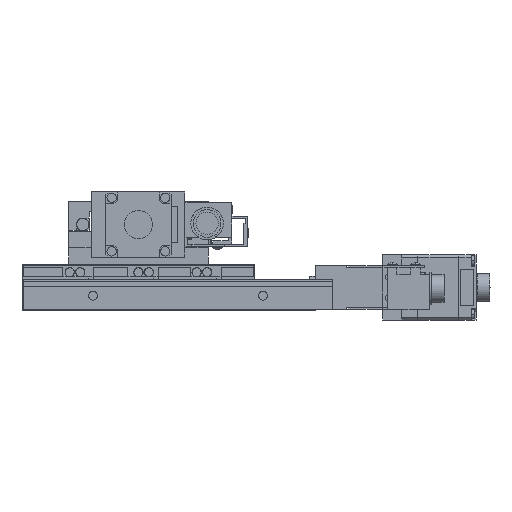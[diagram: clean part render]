
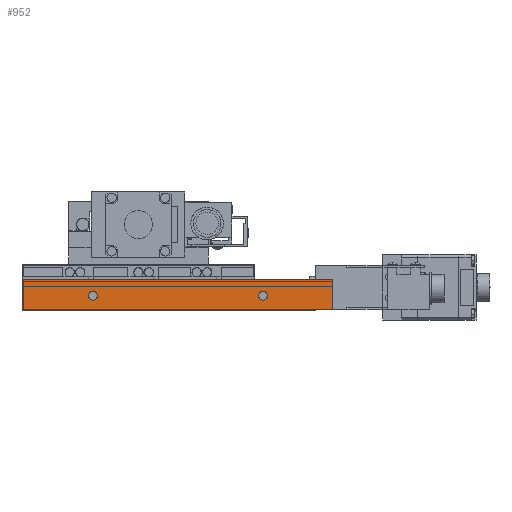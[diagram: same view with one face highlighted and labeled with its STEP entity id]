
A CAD part, front view. The second image highlights one B-rep face of the part: STEP entity #952.
In plain terms, the highlighted planar face has unit normal (0, -1, 0).
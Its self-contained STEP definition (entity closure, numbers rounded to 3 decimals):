
#952=ADVANCED_FACE('',(#2519,#2520,#2521),#2522,.F.);
#2519=FACE_BOUND('',#5129,.T.);
#2520=FACE_BOUND('',#5130,.T.);
#2521=FACE_OUTER_BOUND('',#5131,.T.);
#2522=PLANE('',#5132);
#5129=EDGE_LOOP('',(#9459,#9460));
#5130=EDGE_LOOP('',(#9461,#9462));
#5131=EDGE_LOOP('',(#9463,#9464,#9465,#9466));
#5132=AXIS2_PLACEMENT_3D('',#9467,#9468,#9469);
#9459=ORIENTED_EDGE('',*,*,#17576,.T.);
#9460=ORIENTED_EDGE('',*,*,#17575,.T.);
#9461=ORIENTED_EDGE('',*,*,#17578,.T.);
#9462=ORIENTED_EDGE('',*,*,#17571,.T.);
#9463=ORIENTED_EDGE('',*,*,#17579,.T.);
#9464=ORIENTED_EDGE('',*,*,#17580,.F.);
#9465=ORIENTED_EDGE('',*,*,#17581,.F.);
#9466=ORIENTED_EDGE('',*,*,#17582,.T.);
#9467=CARTESIAN_POINT('',(83.5,-46.8,13.5));
#9468=DIRECTION('',(0.,1.0,0.));
#9469=DIRECTION('',(0.,0.,-1.0));
#17571=EDGE_CURVE('',#21084,#21088,#21090,.T.);
#17575=EDGE_CURVE('',#21092,#21096,#21098,.T.);
#17576=EDGE_CURVE('',#21096,#21092,#21099,.T.);
#17578=EDGE_CURVE('',#21088,#21084,#21101,.T.);
#17579=EDGE_CURVE('',#21102,#21103,#21104,.T.);
#17580=EDGE_CURVE('',#21105,#21103,#21106,.T.);
#17581=EDGE_CURVE('',#21107,#21105,#21108,.T.);
#17582=EDGE_CURVE('',#21107,#21102,#21109,.T.);
#21084=VERTEX_POINT('',#26540);
#21088=VERTEX_POINT('',#26545);
#21090=CIRCLE('',#26548,1.95);
#21092=VERTEX_POINT('',#26550);
#21096=VERTEX_POINT('',#26555);
#21098=CIRCLE('',#26558,1.95);
#21099=CIRCLE('',#26559,1.95);
#21101=CIRCLE('',#26561,1.95);
#21102=VERTEX_POINT('',#26562);
#21103=VERTEX_POINT('',#26563);
#21104=LINE('',#26564,#26565);
#21105=VERTEX_POINT('',#26566);
#21106=LINE('',#26567,#26568);
#21107=VERTEX_POINT('',#26569);
#21108=LINE('',#26570,#26571);
#21109=LINE('',#26572,#26573);
#26540=CARTESIAN_POINT('',(55.45,-46.8,6.5));
#26545=CARTESIAN_POINT('',(51.55,-46.8,6.5));
#26548=AXIS2_PLACEMENT_3D('',#33283,#33284,#33285);
#26550=CARTESIAN_POINT('',(-17.55,-46.8,6.5));
#26555=CARTESIAN_POINT('',(-21.45,-46.8,6.5));
#26558=AXIS2_PLACEMENT_3D('',#33291,#33292,#33293);
#26559=AXIS2_PLACEMENT_3D('',#33294,#33295,#33296);
#26561=AXIS2_PLACEMENT_3D('',#33300,#33301,#33302);
#26562=CARTESIAN_POINT('',(-49.5,-46.8,13.5));
#26563=CARTESIAN_POINT('',(-49.5,-46.8,0.5));
#26564=CARTESIAN_POINT('',(-49.5,-46.8,13.5));
#26565=VECTOR('',#33303,1000.0);
#26566=CARTESIAN_POINT('',(83.5,-46.8,0.5));
#26567=CARTESIAN_POINT('',(83.5,-46.8,0.5));
#26568=VECTOR('',#33304,1000.0);
#26569=CARTESIAN_POINT('',(83.5,-46.8,13.5));
#26570=CARTESIAN_POINT('',(83.5,-46.8,13.5));
#26571=VECTOR('',#33305,1000.0);
#26572=CARTESIAN_POINT('',(83.5,-46.8,13.5));
#26573=VECTOR('',#33306,1000.0);
#33283=CARTESIAN_POINT('',(53.5,-46.8,6.5));
#33284=DIRECTION('',(0.,1.0,0.));
#33285=DIRECTION('',(-1.0,0.,0.));
#33291=CARTESIAN_POINT('',(-19.5,-46.8,6.5));
#33292=DIRECTION('',(0.,1.0,0.));
#33293=DIRECTION('',(-1.0,0.,0.));
#33294=CARTESIAN_POINT('',(-19.5,-46.8,6.5));
#33295=DIRECTION('',(0.,1.0,0.));
#33296=DIRECTION('',(-1.0,0.,0.));
#33300=CARTESIAN_POINT('',(53.5,-46.8,6.5));
#33301=DIRECTION('',(0.,1.0,0.));
#33302=DIRECTION('',(-1.0,0.,0.));
#33303=DIRECTION('',(0.,0.,-1.0));
#33304=DIRECTION('',(-1.0,0.,0.));
#33305=DIRECTION('',(0.,0.,-1.0));
#33306=DIRECTION('',(-1.0,0.,0.));
